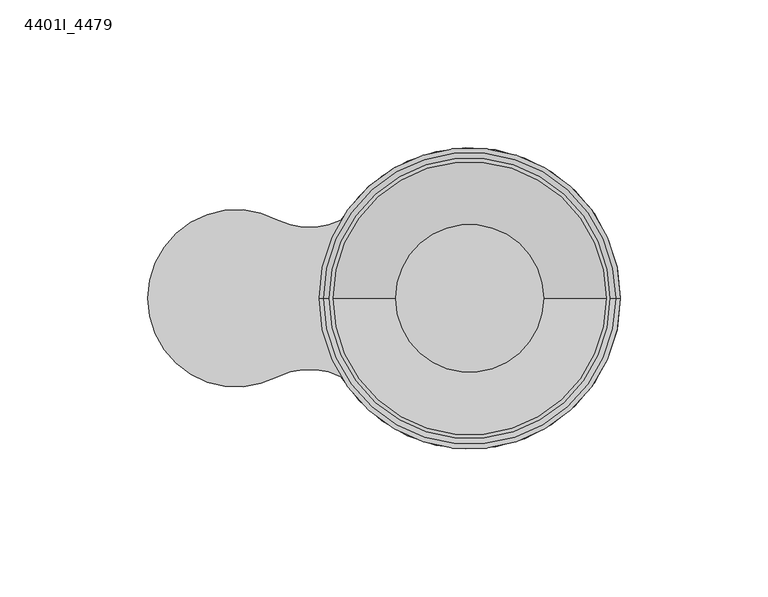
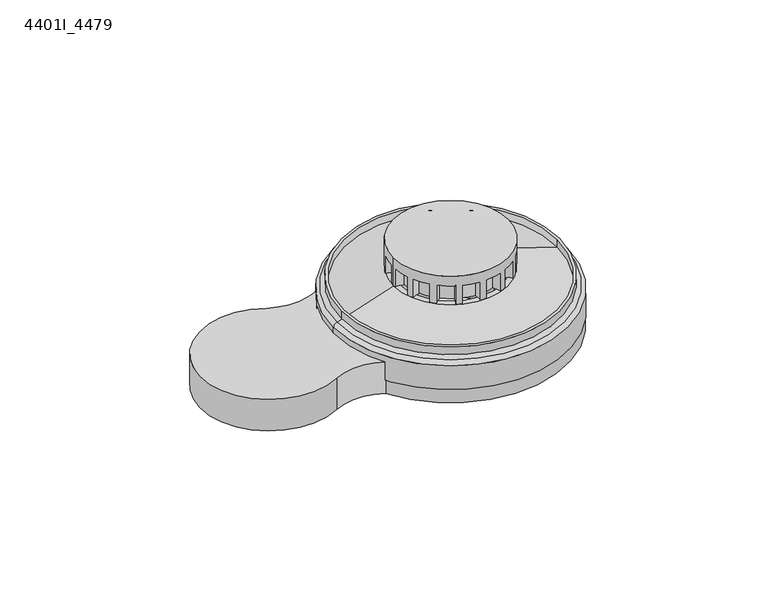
"""IFC4 building model written with IfcOpenShell, lengths in millimetres: alarm geometry, 4401I_Analog Smoke Detector : 4401I_4479."""

from ifc_helpers import new_model, si_unit, point, frame, frame_2d, origin, origin_with_axes, origin_2d, place, context, project, spatial, polyline, circle_curve, ellipse_curve, trimmed, segment, composite_curve, outline, extrude, source, transform, mapped, element, save
from ifc_brep_helpers import plane_surface, cylinder_surface, revolved_surface, advanced_brep


def alarm_4401i_4479_b156c475(model_context):
    return source(origin(), model_context, "Body", "SolidModel", [
        advanced_brep(
        [(49.4021885, 0.0, 18.7), (-49.4021885, 0.0, 18.7), (-25.0, 0.0, 26.9055913), (25.0, 0.0, 26.9055913), (46.9790343, 0.0, 18.7), (-46.9790343, 0.0, 18.7), (22.5768458, 0.0, 26.9055913), (-22.5768458, 0.0, 26.9055913)],
        [
            (0, 1, circle_curve(frame((0.0, 0.0, 18.7), z_axis=(0.0, 0.0, 1.0), x_axis=(-1.0, 0.0, 0.0)), 49.4021885)),
            (1, 2),
            (2, 3, circle_curve(frame((0.0, 0.0, 26.9055913), z_axis=(0.0, 0.0, -1.0), x_axis=(-1.0, 0.0, 0.0)), 25.0)),
            (3, 0),
            (1, 0, circle_curve(frame((0.0, 0.0, 18.7), z_axis=(0.0, 0.0, 1.0), x_axis=(-1.0, 0.0, 0.0)), 49.4021885)),
            (3, 2, circle_curve(frame((0.0, 0.0, 26.9055913), z_axis=(0.0, 0.0, -1.0), x_axis=(-1.0, 0.0, 0.0)), 25.0)),
            (4, 5, circle_curve(frame((0.0, 0.0, 18.7), z_axis=(0.0, 0.0, 1.0), x_axis=(-1.0, 0.0, 0.0)), 46.9790343)),
            (5, 1),
            (0, 4),
            (5, 4, circle_curve(frame((0.0, 0.0, 18.7), z_axis=(0.0, 0.0, 1.0), x_axis=(-1.0, 0.0, 0.0)), 46.9790343)),
            (6, 7, circle_curve(frame((0.0, 0.0, 26.9055913), z_axis=(0.0, 0.0, 1.0), x_axis=(-1.0, 0.0, 0.0)), 22.5768458)),
            (7, 5),
            (4, 6),
            (7, 6, circle_curve(frame((0.0, 0.0, 26.9055913), z_axis=(0.0, 0.0, 1.0), x_axis=(-1.0, 0.0, 0.0)), 22.5768458)),
            (2, 7),
            (6, 3),
        ],
        [
            revolved_surface(polyline([(-25.0, 0.0, 26.9055913), (-49.4021885, 0.0, 18.7)]), (0.0, 0.0, 2609.0581012), (0.0, 0.0, -1.0)),
            plane_surface(frame((0.0, 0.0, 18.7), z_axis=(0.0, 0.0, -1.0), x_axis=(-1.0, 0.0, 0.0))),
            revolved_surface(polyline([(-46.9790343, 0.0, 18.7), (-22.5768458, 0.0, 26.9055913)]), (0.0, 0.0, 2609.0581012), (0.0, 0.0, -1.0)),
            plane_surface(frame((0.0, 0.0, 26.9055913), z_axis=(0.0, 0.0, 1.0), x_axis=(-1.0, 0.0, 0.0))),
        ],
        [
            (0, [[1, 2, 3, 4]]),
            (0, [[5, -4, 6, -2]]),
            (1, [[7, 8, -1, 9]]),
            (1, [[10, -9, -5, -8]]),
            (2, [[11, 12, -7, 13]]),
            (2, [[14, -13, -10, -12]]),
            (3, [[-3, 15, -11, 16]]),
            (3, [[-6, -16, -14, -15]]),
        ],
    ),
        advanced_brep(
        [(-25.0, 0.0, 40.0055913), (25.0, 0.0, 40.0055913), (-10.2364426, 22.8082275, 26.9055913), (-7.8171012, 23.7464298, 26.9055913), (-6.566365, 19.9470011, 26.9055913), (-0.7601379, 20.9862381, 26.9055913), (-0.7748533, 24.9879892, 26.9055913), (1.8194655, 24.933703, 26.9055913), (1.528351, 20.9443105, 26.9055913), (7.2926143, 19.6930895, 26.9055913), (8.8036125, 23.3986411, 26.9055913), (11.1815896, 22.3600549, 26.9055913), (9.3925353, 18.7824461, 26.9055913), (14.2453716, 15.4294973, 26.9055913), (17.0541691, 18.2799157, 26.9055913), (18.857118, 16.4136864, 26.9055913), (15.8399791, 13.7874966, 26.9055913), (19.0494019, 8.8385682, 26.9055913), (22.7323284, 10.4039053, 26.9055913), (23.688298, 7.9915291, 26.9055913), (19.8981703, 6.7128844, 26.9055913), (20.9800803, 0.9144573, 26.9055913), (24.9816149, 0.9586025, 26.9055913), (25.0, 0.0, 26.9055913), (24.9464097, -1.6360453, 26.9055913), (20.9549841, -1.3742781, 26.9055913), (19.7461893, -7.1475874, 26.9055913), (23.4627531, -8.6312929, 26.9055913), (22.4416834, -11.0168438, 26.9055913), (18.851014, -9.2541488, 26.9055913), (15.5338454, -14.1315126, 26.9055913), (18.4048435, -16.9192711, 26.9055913), (16.5519242, -18.7358962, 26.9055913), (13.9036163, -15.7381528, 26.9055913), (8.978425, -18.9838849, 26.9055913), (10.5708052, -22.6551998, 26.9055913), (8.1655248, -23.628885, 26.9055913), (6.8590408, -19.8482634, 26.9055913), (1.0687273, -20.9727877, 26.9055913), (1.1422999, -24.9738894, 26.9055913), (-1.4525367, -24.9577671, 26.9055913), (-1.2201308, -20.9645243, 26.9055913), (-7.0021739, -19.7982211, 26.9055913), (-8.4585064, -23.5255961, 26.9055913), (-10.8515021, -22.5220981, 26.9055913), (-9.1152617, -18.9185624, 26.9055913), (-14.0168893, -15.6373532, 26.9055913), (-16.7834581, -18.5287758, 26.9055913), (-18.613661, -16.6892667, 26.9055913), (-15.6354753, -14.018984, 26.9055913), (-18.9173411, -9.1177961, 26.9055913), (-22.5768458, -10.7371334, 26.9055913), (-23.5681939, -8.3390788, 26.9055913), (-19.7972829, -7.0048262, 26.9055913), (-20.9643607, -1.2229394, 26.9055913), (-24.9648131, -1.3259355, 26.9055913), (-25.0, 0.0, 26.9055913), (-24.9677746, 1.2689495, 26.9055913), (-20.9729306, 1.0659176, 26.9055913), (-19.8491821, 6.8563817, 26.9055913), (-23.5871666, 8.2852624, 26.9055913), (-22.2772169, 11.3457307, 26.9055913), (-18.7128622, 9.5304138, 26.9055913), (-15.3243147, 14.3584602, 26.9055913), (-18.1539992, 17.1881446, 26.9055913), (-16.2745608, 18.9773199, 26.9055913), (-13.6706311, 15.9409487, 26.9055913), (-8.6982334, 19.1138885, 26.9055913), (-24.9648131, -1.3259355, 35.6055913), (-23.5681939, -8.3390788, 35.6055913), (-22.5768458, -10.7371334, 35.6055913), (-18.613661, -16.6892667, 35.6055913), (-16.7834581, -18.5287758, 35.6055913), (-10.8515021, -22.5220981, 35.6055913), (-8.4585064, -23.5255961, 35.6055913), (-1.4525367, -24.9577671, 35.6055913), (1.1422999, -24.9738894, 35.6055913), (8.1655248, -23.628885, 35.6055913), (10.5708052, -22.6551998, 35.6055913), (16.5519242, -18.7358962, 35.6055913), (18.4048435, -16.9192711, 35.6055913), (22.4416834, -11.0168438, 35.6055913), (23.4627531, -8.6312929, 35.6055913), (24.9464097, -1.6360453, 35.6055913), (24.9816149, 0.9586025, 35.6055913), (23.688298, 7.9915291, 35.6055913), (22.7323284, 10.4039053, 35.6055913), (18.857118, 16.4136864, 35.6055913), (17.0541691, 18.2799157, 35.6055913), (11.1815896, 22.3600549, 35.6055913), (8.8036125, 23.3986411, 35.6055913), (1.8194655, 24.933703, 35.6055913), (-0.7748533, 24.9879892, 35.6055913), (-7.8171012, 23.7464298, 35.6055913), (-10.2364426, 22.8082275, 35.6055913), (-16.2745608, 18.9773199, 35.6055913), (-18.1539992, 17.1881446, 35.6055913), (-22.2772169, 11.3457307, 35.6055913), (-23.5871666, 8.2852624, 35.6055913), (-24.9677746, 1.2689495, 35.6055913), (-8.6982334, 19.1138885, 35.6055913), (-13.6706311, 15.9409487, 35.6055913), (-0.7601379, 20.9862381, 35.6055913), (-6.566365, 19.9470011, 35.6055913), (7.2926143, 19.6930895, 35.6055913), (1.528351, 20.9443105, 35.6055913), (14.2453716, 15.4294973, 35.6055913), (9.3925353, 18.7824461, 35.6055913), (19.0494019, 8.8385682, 35.6055913), (15.8399791, 13.7874966, 35.6055913), (20.9800803, 0.9144573, 35.6055913), (19.8981703, 6.7128844, 35.6055913), (19.7461893, -7.1475874, 35.6055913), (20.9549841, -1.3742781, 35.6055913), (15.5338454, -14.1315126, 35.6055913), (18.851014, -9.2541488, 35.6055913), (8.978425, -18.9838849, 35.6055913), (13.9036163, -15.7381528, 35.6055913), (1.0687273, -20.9727877, 35.6055913), (6.8590408, -19.8482634, 35.6055913), (-7.0021739, -19.7982211, 35.6055913), (-1.2201308, -20.9645243, 35.6055913), (-14.0168893, -15.6373532, 35.6055913), (-9.1152617, -18.9185624, 35.6055913), (-18.9173411, -9.1177961, 35.6055913), (-15.6354753, -14.018984, 35.6055913), (-20.9643607, -1.2229394, 35.6055913), (-19.7972829, -7.0048262, 35.6055913), (-19.8491821, 6.8563817, 35.6055913), (-20.9729306, 1.0659176, 35.6055913), (-15.3243147, 14.3584602, 35.6055913), (-18.7128622, 9.5304138, 35.6055913)],
        [
            (0, 1, circle_curve(frame((0.0, 0.0, 40.0055913), z_axis=(0.0, 0.0, 1.0), x_axis=(1.0, 0.0, 0.0)), 25.0)),
            (1, 0, circle_curve(frame((0.0, 0.0, 40.0055913), z_axis=(0.0, 0.0, 1.0), x_axis=(1.0, 0.0, 0.0)), 25.0)),
            (2, 3, circle_curve(frame((0.0, 0.0, 26.9055913), z_axis=(0.0, 0.0, -1.0), x_axis=(1.0, 0.0, 0.0)), 25.0)),
            (3, 4),
            (4, 5, circle_curve(frame((0.0, 0.0, 26.9055913), z_axis=(0.0, 0.0, -1.0), x_axis=(0.7097021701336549, -0.7045018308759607, 0.0)), 21.0)),
            (5, 6),
            (6, 7, circle_curve(frame((0.0, 0.0, 26.9055913), z_axis=(0.0, 0.0, -1.0), x_axis=(1.0, 0.0, 0.0)), 25.0)),
            (7, 8),
            (8, 9, circle_curve(frame((0.0, 0.0, 26.9055913), z_axis=(0.0, 0.0, -1.0), x_axis=(0.38777352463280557, -0.9217546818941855, 0.0)), 21.0)),
            (9, 10),
            (10, 11, circle_curve(frame((0.0, 0.0, 26.9055913), z_axis=(0.0, 0.0, -1.0), x_axis=(1.0, 0.0, 0.0)), 25.0)),
            (11, 12),
            (12, 13, circle_curve(frame((0.0, 0.0, 26.9055913), z_axis=(0.0, 0.0, -1.0), x_axis=(0.0073543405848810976, -0.9999729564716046, 0.0)), 21.0)),
            (13, 14),
            (14, 15, circle_curve(frame((0.0, 0.0, 26.9055913), z_axis=(0.0, 0.0, -1.0), x_axis=(1.0, 0.0, 0.0)), 25.0)),
            (15, 16),
            (16, 17, circle_curve(frame((0.0, 0.0, 26.9055913), z_axis=(0.0, 0.0, -1.0), x_axis=(-0.3741741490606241, -0.9273584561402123, 0.0)), 21.0)),
            (17, 18),
            (18, 19, circle_curve(frame((0.0, 0.0, 26.9055913), z_axis=(0.0, 0.0, -1.0), x_axis=(1.0, 0.0, 0.0)), 25.0)),
            (19, 20),
            (20, 21, circle_curve(frame((0.0, 0.0, 26.9055913), z_axis=(0.0, 0.0, -1.0), x_axis=(-0.6992633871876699, -0.7148641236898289, 0.0)), 21.0)),
            (21, 22),
            (22, 23, circle_curve(frame((0.0, 0.0, 26.9055913), z_axis=(0.0, 0.0, -1.0), x_axis=(1.0, 0.0, 0.0)), 25.0)),
            (23, 24, circle_curve(frame((0.0, 0.0, 26.9055913), z_axis=(0.0, 0.0, -1.0), x_axis=(1.0, 0.0, 0.0)), 25.0)),
            (24, 25),
            (25, 26, circle_curve(frame((0.0, 0.0, 26.9055913), z_axis=(0.0, 0.0, -1.0), x_axis=(-0.9188779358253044, -0.39454193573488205, 0.0)), 21.0)),
            (26, 27),
            (27, 28, circle_curve(frame((0.0, 0.0, 26.9055913), z_axis=(0.0, 0.0, -1.0), x_axis=(1.0, 0.0, 0.0)), 25.0)),
            (28, 29),
            (29, 30, circle_curve(frame((0.0, 0.0, 26.9055913), z_axis=(0.0, 0.0, -1.0), x_axis=(-0.9998918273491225, -0.014708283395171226, 0.0)), 21.0)),
            (30, 31),
            (31, 32, circle_curve(frame((0.0, 0.0, 26.9055913), z_axis=(0.0, 0.0, -1.0), x_axis=(1.0, 0.0, 0.0)), 25.0)),
            (32, 33),
            (33, 34, circle_curve(frame((0.0, 0.0, 26.9055913), z_axis=(0.0, 0.0, -1.0), x_axis=(-0.9300851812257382, 0.3673439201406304, 0.0)), 21.0)),
            (34, 35),
            (35, 36, circle_curve(frame((0.0, 0.0, 26.9055913), z_axis=(0.0, 0.0, -1.0), x_axis=(1.0, 0.0, 0.0)), 25.0)),
            (36, 37),
            (37, 38, circle_curve(frame((0.0, 0.0, 26.9055913), z_axis=(0.0, 0.0, -1.0), x_axis=(-0.7199874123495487, 0.6939871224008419, 0.0)), 21.0)),
            (38, 39),
            (39, 40, circle_curve(frame((0.0, 0.0, 26.9055913), z_axis=(0.0, 0.0, -1.0), x_axis=(1.0, 0.0, 0.0)), 25.0)),
            (40, 41),
            (41, 42, circle_curve(frame((0.0, 0.0, 26.9055913), z_axis=(0.0, 0.0, -1.0), x_axis=(-0.4012890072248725, 0.9159514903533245, 0.0)), 21.0)),
            (42, 43),
            (43, 44, circle_curve(frame((0.0, 0.0, 26.9055913), z_axis=(0.0, 0.0, -1.0), x_axis=(1.0, 0.0, 0.0)), 25.0)),
            (44, 45),
            (45, 46, circle_curve(frame((0.0, 0.0, 26.9055913), z_axis=(0.0, 0.0, -1.0), x_axis=(-0.022061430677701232, 0.9997566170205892, 0.0)), 21.0)),
            (46, 47),
            (47, 48, circle_curve(frame((0.0, 0.0, 26.9055913), z_axis=(0.0, 0.0, -1.0), x_axis=(1.0, 0.0, 0.0)), 25.0)),
            (48, 49),
            (49, 50, circle_curve(frame((0.0, 0.0, 26.9055913), z_axis=(0.0, 0.0, -1.0), x_axis=(0.36049382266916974, 0.9327616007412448, 0.0)), 21.0)),
            (50, 51),
            (51, 52, circle_curve(frame((0.0, 0.0, 26.9055913), z_axis=(0.0, 0.0, -1.0), x_axis=(1.0, 0.0, 0.0)), 25.0)),
            (52, 53),
            (53, 54, circle_curve(frame((0.0, 0.0, 26.9055913), z_axis=(0.0, 0.0, -1.0), x_axis=(0.6886733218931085, 0.7250717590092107, 0.0)), 21.0)),
            (54, 55),
            (55, 56, circle_curve(frame((0.0, 0.0, 26.9055913), z_axis=(0.0, 0.0, -1.0), x_axis=(1.0, 0.0, 0.0)), 25.0)),
            (56, 57, circle_curve(frame((0.0, 0.0, 26.9055913), z_axis=(0.0, 0.0, -1.0), x_axis=(1.0, 0.0, 0.0)), 25.0)),
            (57, 58),
            (58, 59, circle_curve(frame((0.0, 0.0, 26.9055913), z_axis=(0.0, 0.0, -1.0), x_axis=(0.9129755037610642, 0.4080143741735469, 0.0)), 21.0)),
            (59, 60),
            (60, 61, circle_curve(frame((0.0, 0.0, 26.9055913), z_axis=(0.0, 0.0, -1.0), x_axis=(1.0, 0.0, 0.0)), 25.0)),
            (61, 62),
            (62, 63, circle_curve(frame((0.0, 0.0, 26.9055913), z_axis=(0.0, 0.0, -1.0), x_axis=(1.0, 0.0, 0.0)), 21.0)),
            (63, 64),
            (64, 65, circle_curve(frame((0.0, 0.0, 26.9055913), z_axis=(0.0, 0.0, -1.0), x_axis=(1.0, 0.0, 0.0)), 25.0)),
            (65, 66),
            (66, 67, circle_curve(frame((0.0, 0.0, 26.9055913), z_axis=(0.0, 0.0, -1.0), x_axis=(0.9245815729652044, -0.3809841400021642, 0.0)), 21.0)),
            (67, 2),
            (0, 56),
            (55, 68),
            (68, 69, circle_curve(frame((0.0, 0.0, 35.6055913), z_axis=(0.0, 0.0, 1.0), x_axis=(1.0, 0.0, 0.0)), 25.0)),
            (69, 52),
            (51, 70),
            (70, 71, circle_curve(frame((0.0, 0.0, 35.6055913), z_axis=(0.0, 0.0, 1.0), x_axis=(1.0, 0.0, 0.0)), 25.0)),
            (71, 48),
            (47, 72),
            (72, 73, circle_curve(frame((0.0, 0.0, 35.6055913), z_axis=(0.0, 0.0, 1.0), x_axis=(1.0, 0.0, 0.0)), 25.0)),
            (73, 44),
            (43, 74),
            (74, 75, circle_curve(frame((0.0, 0.0, 35.6055913), z_axis=(0.0, 0.0, 1.0), x_axis=(1.0, 0.0, 0.0)), 25.0)),
            (75, 40),
            (39, 76),
            (76, 77, circle_curve(frame((0.0, 0.0, 35.6055913), z_axis=(0.0, 0.0, 1.0), x_axis=(1.0, 0.0, 0.0)), 25.0)),
            (77, 36),
            (35, 78),
            (78, 79, circle_curve(frame((0.0, 0.0, 35.6055913), z_axis=(0.0, 0.0, 1.0), x_axis=(1.0, 0.0, 0.0)), 25.0)),
            (79, 32),
            (31, 80),
            (80, 81, circle_curve(frame((0.0, 0.0, 35.6055913), z_axis=(0.0, 0.0, 1.0), x_axis=(1.0, 0.0, 0.0)), 25.0)),
            (81, 28),
            (27, 82),
            (82, 83, circle_curve(frame((0.0, 0.0, 35.6055913), z_axis=(0.0, 0.0, 1.0), x_axis=(1.0, 0.0, 0.0)), 25.0)),
            (83, 24),
            (23, 1),
            (22, 84),
            (84, 85, circle_curve(frame((0.0, 0.0, 35.6055913), z_axis=(0.0, 0.0, 1.0), x_axis=(1.0, 0.0, 0.0)), 25.0)),
            (85, 19),
            (18, 86),
            (86, 87, circle_curve(frame((0.0, 0.0, 35.6055913), z_axis=(0.0, 0.0, 1.0), x_axis=(1.0, 0.0, 0.0)), 25.0)),
            (87, 15),
            (14, 88),
            (88, 89, circle_curve(frame((0.0, 0.0, 35.6055913), z_axis=(0.0, 0.0, 1.0), x_axis=(1.0, 0.0, 0.0)), 25.0)),
            (89, 11),
            (10, 90),
            (90, 91, circle_curve(frame((0.0, 0.0, 35.6055913), z_axis=(0.0, 0.0, 1.0), x_axis=(1.0, 0.0, 0.0)), 25.0)),
            (91, 7),
            (6, 92),
            (92, 93, circle_curve(frame((0.0, 0.0, 35.6055913), z_axis=(0.0, 0.0, 1.0), x_axis=(1.0, 0.0, 0.0)), 25.0)),
            (93, 3),
            (2, 94),
            (94, 95, circle_curve(frame((0.0, 0.0, 35.6055913), z_axis=(0.0, 0.0, 1.0), x_axis=(1.0, 0.0, 0.0)), 25.0)),
            (95, 65),
            (64, 96),
            (96, 97, circle_curve(frame((0.0, 0.0, 35.6055913), z_axis=(0.0, 0.0, 1.0), x_axis=(1.0, 0.0, 0.0)), 25.0)),
            (97, 61),
            (60, 98),
            (98, 99, circle_curve(frame((0.0, 0.0, 35.6055913), z_axis=(0.0, 0.0, 1.0), x_axis=(1.0, 0.0, 0.0)), 25.0)),
            (99, 57),
            (100, 101, circle_curve(frame((0.0, 0.0, 35.6055913), z_axis=(0.0, 0.0, 1.0), x_axis=(0.9245815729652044, -0.3809841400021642, 0.0)), 21.0)),
            (101, 95),
            (94, 100),
            (102, 103, circle_curve(frame((0.0, 0.0, 35.6055913), z_axis=(0.0, 0.0, 1.0), x_axis=(0.7097021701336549, -0.7045018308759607, 0.0)), 21.0)),
            (103, 93),
            (92, 102),
            (104, 105, circle_curve(frame((0.0, 0.0, 35.6055913), z_axis=(0.0, 0.0, 1.0), x_axis=(0.38777352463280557, -0.9217546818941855, 0.0)), 21.0)),
            (105, 91),
            (90, 104),
            (106, 107, circle_curve(frame((0.0, 0.0, 35.6055913), z_axis=(0.0, 0.0, 1.0), x_axis=(0.0073543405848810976, -0.9999729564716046, 0.0)), 21.0)),
            (107, 89),
            (88, 106),
            (108, 109, circle_curve(frame((0.0, 0.0, 35.6055913), z_axis=(0.0, 0.0, 1.0), x_axis=(-0.3741741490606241, -0.9273584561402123, 0.0)), 21.0)),
            (109, 87),
            (86, 108),
            (110, 111, circle_curve(frame((0.0, 0.0, 35.6055913), z_axis=(0.0, 0.0, 1.0), x_axis=(-0.6992633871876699, -0.7148641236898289, 0.0)), 21.0)),
            (111, 85),
            (84, 110),
            (112, 113, circle_curve(frame((0.0, 0.0, 35.6055913), z_axis=(0.0, 0.0, 1.0), x_axis=(-0.9188779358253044, -0.39454193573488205, 0.0)), 21.0)),
            (113, 83),
            (82, 112),
            (114, 115, circle_curve(frame((0.0, 0.0, 35.6055913), z_axis=(0.0, 0.0, 1.0), x_axis=(-0.9998918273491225, -0.014708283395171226, 0.0)), 21.0)),
            (115, 81),
            (80, 114),
            (116, 117, circle_curve(frame((0.0, 0.0, 35.6055913), z_axis=(0.0, 0.0, 1.0), x_axis=(-0.9300851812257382, 0.3673439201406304, 0.0)), 21.0)),
            (117, 79),
            (78, 116),
            (118, 119, circle_curve(frame((0.0, 0.0, 35.6055913), z_axis=(0.0, 0.0, 1.0), x_axis=(-0.7199874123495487, 0.6939871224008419, 0.0)), 21.0)),
            (119, 77),
            (76, 118),
            (120, 121, circle_curve(frame((0.0, 0.0, 35.6055913), z_axis=(0.0, 0.0, 1.0), x_axis=(-0.4012890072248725, 0.9159514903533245, 0.0)), 21.0)),
            (121, 75),
            (74, 120),
            (122, 123, circle_curve(frame((0.0, 0.0, 35.6055913), z_axis=(0.0, 0.0, 1.0), x_axis=(-0.022061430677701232, 0.9997566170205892, 0.0)), 21.0)),
            (123, 73),
            (72, 122),
            (124, 125, circle_curve(frame((0.0, 0.0, 35.6055913), z_axis=(0.0, 0.0, 1.0), x_axis=(0.36049382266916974, 0.9327616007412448, 0.0)), 21.0)),
            (125, 71),
            (70, 124),
            (126, 127, circle_curve(frame((0.0, 0.0, 35.6055913), z_axis=(0.0, 0.0, 1.0), x_axis=(0.6886733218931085, 0.7250717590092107, 0.0)), 21.0)),
            (127, 69),
            (68, 126),
            (128, 129, circle_curve(frame((0.0, 0.0, 35.6055913), z_axis=(0.0, 0.0, 1.0), x_axis=(0.9129755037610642, 0.4080143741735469, 0.0)), 21.0)),
            (129, 99),
            (98, 128),
            (130, 131, circle_curve(frame((0.0, 0.0, 35.6055913), z_axis=(0.0, 0.0, 1.0), x_axis=(1.0, 0.0, 0.0)), 21.0)),
            (131, 97),
            (96, 130),
            (100, 67),
            (66, 101),
            (102, 5),
            (4, 103),
            (104, 9),
            (8, 105),
            (106, 13),
            (12, 107),
            (108, 17),
            (16, 109),
            (110, 21),
            (20, 111),
            (26, 112),
            (113, 25),
            (30, 114),
            (115, 29),
            (34, 116),
            (117, 33),
            (119, 37),
            (118, 38),
            (42, 120),
            (121, 41),
            (46, 122),
            (123, 45),
            (125, 49),
            (124, 50),
            (127, 53),
            (126, 54),
            (128, 59),
            (58, 129),
            (130, 63),
            (62, 131),
        ],
        [
            plane_surface(frame((25.0, 0.0, 40.0055913), z_axis=(0.0, 0.0, 1.0), x_axis=(0.0, 1.0, 0.0))),
            plane_surface(frame((25.0, 0.0, 26.9055913), z_axis=(0.0, 0.0, -1.0), x_axis=(0.0, -1.0, 0.0))),
            cylinder_surface(frame((0.0, 0.0, 26.9055913), z_axis=(0.0, 0.0, 1.0), x_axis=(1.0, 0.0, 0.0)), 25.0),
            plane_surface(frame((19.416213, -8.0006669, 35.6055913), z_axis=(0.0, 0.0, -1.0), x_axis=(-0.38098414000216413, -0.9245815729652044, 0.0))),
            cylinder_surface(frame((0.0, 0.0, 26.9055913), z_axis=(0.0, 0.0, -1.0000000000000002), x_axis=(0.9245815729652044, -0.3809841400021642, 0.0)), 21.0),
            plane_surface(frame((-8.6982334, 19.1138885, 35.6055913), z_axis=(-0.9231743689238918, -0.3843814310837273, 0.0), x_axis=(0.0, 0.0, -1.0))),
            plane_surface(frame((-18.8784906, 22.0136911, 35.6055913), z_axis=(0.7590927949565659, 0.6509824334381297, 0.0), x_axis=(0.0, 0.0, -1.0))),
            cylinder_surface(frame((0.0, 0.0, 0.0), z_axis=(0.0, 0.0, -1.0), x_axis=(0.7097021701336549, -0.7045018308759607, 0.0)), 21.0),
            plane_surface(frame((-0.7601379, 20.9862381, 35.6055913), z_axis=(-0.9999932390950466, -0.0036771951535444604, 0.0), x_axis=(0.0, 0.0, -1.0))),
            plane_surface(frame((-9.0678374, 27.5458586, 35.6055913), z_axis=(0.9498571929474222, 0.3126840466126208, 0.0), x_axis=(0.0, 0.0, -1.0))),
            cylinder_surface(frame((0.0, 0.0, 0.0), z_axis=(0.0, 0.0, -1.0000000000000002), x_axis=(0.38777352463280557, -0.9217546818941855, 0.0)), 21.0),
            plane_surface(frame((7.2926143, 19.6930895, 35.6055913), z_axis=(-0.9259762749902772, 0.37758169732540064, 0.0), x_axis=(0.0, 0.0, -1.0))),
            plane_surface(frame((2.1105799, 28.9230955, 35.6055913), z_axis=(0.9973481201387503, -0.07277861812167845, 0.0), x_axis=(0.0, 0.0, -1.0))),
            cylinder_surface(frame((0.0, 0.0, 0.0), z_axis=(0.0, 0.0, -1.0), x_axis=(0.0073543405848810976, -0.9999729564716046, 0.0)), 21.0),
            plane_surface(frame((14.2453716, 15.4294973, 35.6055913), z_axis=(-0.7122879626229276, 0.7018873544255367, 0.0), x_axis=(0.0, 0.0, -1.0))),
            plane_surface(frame((12.970644, 25.9376636, 35.6055913), z_axis=(0.8944021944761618, -0.44726358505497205, 0.0), x_axis=(0.0, 0.0, -1.0))),
            cylinder_surface(frame((0.0, 0.0, 0.0), z_axis=(0.0, 0.0, -1.0000000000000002), x_axis=(-0.3741741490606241, -0.9273584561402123, 0.0)), 21.0),
            plane_surface(frame((19.0494019, 8.8385682, 35.6055913), z_axis=(-0.39116037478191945, 0.9203225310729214, 0.0), x_axis=(0.0, 0.0, -1.0))),
            plane_surface(frame((21.8742569, 19.0398762, 35.6055913), z_axis=(0.6565474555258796, -0.7542847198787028, 0.0), x_axis=(0.0, 0.0, -1.0))),
            cylinder_surface(frame((0.0, 0.0, 0.0), z_axis=(0.0, 0.0, -1.0), x_axis=(-0.6992633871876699, -0.7148641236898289, 0.0)), 21.0),
            plane_surface(frame((20.9800803, 0.9144573, 35.6055913), z_axis=(-0.011031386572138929, 0.999939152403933, 0.0), x_axis=(0.0, 0.0, -1.0))),
            plane_surface(frame((27.4784257, 9.2701738, 35.6055913), z_axis=(0.3196611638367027, -0.9475319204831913, 0.0), x_axis=(0.0, 0.0, -1.0))),
            plane_surface(frame((19.7461893, -7.1475874, 35.6055913), z_axis=(0.37076154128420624, 0.9287280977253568, 0.0), x_axis=(0.0, 0.0, -1.0))),
            plane_surface(frame((28.9378352, -1.8978126, 35.6055913), z_axis=(-0.06544181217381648, -0.9978563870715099, 0.0), x_axis=(0.0, 0.0, -1.0))),
            cylinder_surface(frame((0.0, 0.0, 0.0), z_axis=(0.0, 0.0, -1.0), x_axis=(-0.9188779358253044, -0.39454193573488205, 0.0)), 21.0),
            plane_surface(frame((15.5338454, -14.1315126, 35.6055913), z_axis=(0.6966299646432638, 0.7174306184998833, 0.0), x_axis=(0.0, 0.0, -1.0))),
            plane_surface(frame((26.0323527, -12.7795388, 35.6055913), z_axis=(-0.44067375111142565, -0.8976673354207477, 0.0), x_axis=(0.0, 0.0, -1.0))),
            cylinder_surface(frame((0.0, 0.0, 0.0), z_axis=(0.0, 0.0, -1.0), x_axis=(-0.9998918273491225, -0.014708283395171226, 0.0)), 21.0),
            plane_surface(frame((8.978425, -18.9838849, 35.6055913), z_axis=(0.9174209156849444, 0.39791816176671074, 0.0), x_axis=(0.0, 0.0, -1.0))),
            plane_surface(frame((19.200232, -21.7336396, 35.6055913), z_axis=(-0.7494358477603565, -0.6620769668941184, 0.0), x_axis=(0.0, 0.0, -1.0))),
            cylinder_surface(frame((0.0, 0.0, 0.0), z_axis=(0.0, 0.0, -1.0000000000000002), x_axis=(-0.9300851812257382, 0.3673439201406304, 0.0)), 21.0),
            plane_surface(frame((9.4720088, -27.4095066, 35.6055913), z_axis=(-0.945155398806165, -0.3266209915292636, 0.0), x_axis=(0.0, 0.0, -1.0))),
            cylinder_surface(frame((0.0, 0.0, 0.0), z_axis=(0.0, 0.0, -1.0000000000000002), x_axis=(-0.7199874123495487, 0.6939871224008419, 0.0)), 21.0),
            plane_surface(frame((1.0687273, -20.9727877, 35.6055913), z_axis=(0.9998309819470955, 0.01838498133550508, 0.0), x_axis=(0.0, 0.0, -1.0))),
            plane_surface(frame((-7.0021739, -19.7982211, 35.6055913), z_axis=(0.9314296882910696, -0.3639213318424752, 0.0), x_axis=(0.0, 0.0, -1.0))),
            plane_surface(frame((-1.6849425, -28.9510098, 35.6055913), z_axis=(-0.9983106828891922, 0.058101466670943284, 0.0), x_axis=(0.0, 0.0, -1.0))),
            cylinder_surface(frame((0.0, 0.0, 0.0), z_axis=(0.0, 0.0, -1.0), x_axis=(-0.4012890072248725, 0.9159514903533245, 0.0)), 21.0),
            plane_surface(frame((-14.0168893, -15.6373532, 35.6055913), z_axis=(0.7225344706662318, -0.691334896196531, 0.0), x_axis=(0.0, 0.0, -1.0))),
            plane_surface(frame((-12.5877424, -26.1256338, 35.6055913), z_axis=(-0.9008839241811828, 0.43406008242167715, 0.0), x_axis=(0.0, 0.0, -1.0))),
            cylinder_surface(frame((0.0, 0.0, 0.0), z_axis=(0.0, 0.0, -1.0), x_axis=(-0.022061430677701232, 0.9997566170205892, 0.0)), 21.0),
            plane_surface(frame((-21.5918468, -19.3595494, 35.6055913), z_axis=(-0.6675706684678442, 0.7445464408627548, 0.0), x_axis=(0.0, 0.0, -1.0))),
            cylinder_surface(frame((0.0, 0.0, 0.0), z_axis=(0.0, 0.0, -1.0000000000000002), x_axis=(0.36049382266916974, 0.9327616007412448, 0.0)), 21.0),
            plane_surface(frame((-18.9173411, -9.1177961, 35.6055913), z_axis=(0.4046544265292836, -0.914469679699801, 0.0), x_axis=(0.0, 0.0, -1.0))),
            plane_surface(frame((-27.3391049, -9.6733314, 35.6055913), z_axis=(-0.3335631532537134, 0.9427277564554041, 0.0), x_axis=(0.0, 0.0, -1.0))),
            cylinder_surface(frame((0.0, 0.0, 0.0), z_axis=(0.0, 0.0, -1.0), x_axis=(0.6886733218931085, 0.7250717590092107, 0.0)), 21.0),
            plane_surface(frame((-20.9643607, -1.2229394, 35.6055913), z_axis=(0.025737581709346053, -0.9996687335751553, 0.0), x_axis=(0.0, 0.0, -1.0))),
            cylinder_surface(frame((0.0, 0.0, 0.0), z_axis=(0.0, 0.0, -1.0), x_axis=(0.9129755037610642, 0.4080143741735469, 0.0)), 21.0),
            plane_surface(frame((-19.8491821, 6.8563817, 35.6055913), z_axis=(-0.35706143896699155, -0.9340809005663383, 0.0), x_axis=(0.0, 0.0, -1.0))),
            plane_surface(frame((-28.9626185, 1.4719814, 35.6055913), z_axis=(0.05075797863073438, 0.998710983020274, 0.0), x_axis=(0.0, 0.0, -1.0))),
            cylinder_surface(frame((0.0, 0.0, 0.0), z_axis=(0.0, 0.0, -1.0), x_axis=(1.0, 0.0, 0.0)), 21.0),
            plane_surface(frame((-15.3243147, 14.3584602, 35.6055913), z_axis=(-0.7071067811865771, -0.7071067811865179, 0.0), x_axis=(0.0, 0.0, -1.0))),
            plane_surface(frame((-25.8415717, 13.1610476, 35.6055913), z_axis=(0.45382922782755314, 0.8910886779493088, 0.0), x_axis=(0.0, 0.0, -1.0))),
        ],
        [
            (0, [[1, 2]]),
            (1, [[3, 4, 5, 6, 7, 8, 9, 10, 11, 12, 13, 14, 15, 16, 17, 18, 19, 20, 21, 22, 23, 24, 25, 26, 27, 28, 29, 30, 31, 32, 33, 34, 35, 36, 37, 38, 39, 40, 41, 42, 43, 44, 45, 46, 47, 48, 49, 50, 51, 52, 53, 54, 55, 56, 57, 58, 59, 60, 61, 62, 63, 64, 65, 66, 67, 68]]),
            (2, [[-1, 69, -56, 70, 71, 72, -52, 73, 74, 75, -48, 76, 77, 78, -44, 79, 80, 81, -40, 82, 83, 84, -36, 85, 86, 87, -32, 88, 89, 90, -28, 91, 92, 93, -24, 94]]),
            (2, [[-2, -94, -23, 95, 96, 97, -19, 98, 99, 100, -15, 101, 102, 103, -11, 104, 105, 106, -7, 107, 108, 109, -3, 110, 111, 112, -65, 113, 114, 115, -61, 116, 117, 118, -57, -69]]),
            (3, [[119, 120, -111, 121]]),
            (3, [[122, 123, -108, 124]]),
            (3, [[125, 126, -105, 127]]),
            (3, [[128, 129, -102, 130]]),
            (3, [[131, 132, -99, 133]]),
            (3, [[134, 135, -96, 136]]),
            (3, [[137, 138, -92, 139]]),
            (3, [[140, 141, -89, 142]]),
            (3, [[143, 144, -86, 145]]),
            (3, [[146, 147, -83, 148]]),
            (3, [[149, 150, -80, 151]]),
            (3, [[152, 153, -77, 154]]),
            (3, [[155, 156, -74, 157]]),
            (3, [[158, 159, -71, 160]]),
            (3, [[161, 162, -117, 163]]),
            (3, [[164, 165, -114, 166]]),
            (4, [[-119, 167, -67, 168]]),
            (5, [[-167, -121, -110, -68]]),
            (6, [[-168, -66, -112, -120]]),
            (7, [[-122, 169, -5, 170]]),
            (8, [[-169, -124, -107, -6]]),
            (9, [[-170, -4, -109, -123]]),
            (10, [[-125, 171, -9, 172]]),
            (11, [[-171, -127, -104, -10]]),
            (12, [[-172, -8, -106, -126]]),
            (13, [[-128, 173, -13, 174]]),
            (14, [[-173, -130, -101, -14]]),
            (15, [[-174, -12, -103, -129]]),
            (16, [[-131, 175, -17, 176]]),
            (17, [[-175, -133, -98, -18]]),
            (18, [[-176, -16, -100, -132]]),
            (19, [[-134, 177, -21, 178]]),
            (20, [[-177, -136, -95, -22]]),
            (21, [[-178, -20, -97, -135]]),
            (22, [[179, -139, -91, -27]]),
            (23, [[180, -25, -93, -138]]),
            (24, [[-137, -179, -26, -180]]),
            (25, [[181, -142, -88, -31]]),
            (26, [[182, -29, -90, -141]]),
            (27, [[-140, -181, -30, -182]]),
            (28, [[183, -145, -85, -35]]),
            (29, [[184, -33, -87, -144]]),
            (30, [[-143, -183, -34, -184]]),
            (31, [[185, -37, -84, -147]]),
            (32, [[-146, 186, -38, -185]]),
            (33, [[-186, -148, -82, -39]]),
            (34, [[187, -151, -79, -43]]),
            (35, [[188, -41, -81, -150]]),
            (36, [[-149, -187, -42, -188]]),
            (37, [[189, -154, -76, -47]]),
            (38, [[190, -45, -78, -153]]),
            (39, [[-152, -189, -46, -190]]),
            (40, [[191, -49, -75, -156]]),
            (41, [[-155, 192, -50, -191]]),
            (42, [[-192, -157, -73, -51]]),
            (43, [[193, -53, -72, -159]]),
            (44, [[-158, 194, -54, -193]]),
            (45, [[-194, -160, -70, -55]]),
            (46, [[-161, 195, -59, 196]]),
            (47, [[-195, -163, -116, -60]]),
            (48, [[-196, -58, -118, -162]]),
            (49, [[-164, 197, -63, 198]]),
            (50, [[-197, -166, -113, -64]]),
            (51, [[-198, -62, -115, -165]]),
        ],
    ),
        advanced_brep(
        [(25.0, 0.0, 18.7), (-25.0, 0.0, 18.7), (-25.0, 0.0, 17.0), (25.0, 0.0, 17.0), (49.4021885, 0.0, 18.7), (-49.4021885, 0.0, 18.7), (51.0000836, 0.0, 17.0), (-51.0000836, 0.0, 17.0)],
        [
            (0, 1, circle_curve(frame((0.0, 0.0, 18.7), z_axis=(0.0, 0.0, 1.0), x_axis=(-1.0, 0.0, 0.0)), 25.0)),
            (1, 2),
            (2, 3, circle_curve(frame((0.0, 0.0, 17.0), z_axis=(0.0, 0.0, -1.0), x_axis=(-1.0, 0.0, 0.0)), 25.0)),
            (3, 0),
            (1, 0, circle_curve(frame((0.0, 0.0, 18.7), z_axis=(0.0, 0.0, 1.0), x_axis=(-1.0, 0.0, 0.0)), 25.0)),
            (3, 2, circle_curve(frame((0.0, 0.0, 17.0), z_axis=(0.0, 0.0, -1.0), x_axis=(-1.0, 0.0, 0.0)), 25.0)),
            (4, 5, circle_curve(frame((0.0, 0.0, 18.7), z_axis=(0.0, 0.0, 1.0), x_axis=(-1.0, 0.0, 0.0)), 49.4021885)),
            (5, 1),
            (0, 4),
            (5, 4, circle_curve(frame((0.0, 0.0, 18.7), z_axis=(0.0, 0.0, 1.0), x_axis=(-1.0, 0.0, 0.0)), 49.4021885)),
            (6, 7, circle_curve(frame((0.0, 0.0, 17.0), z_axis=(0.0, 0.0, 1.0), x_axis=(-1.0, 0.0, 0.0)), 51.0000836)),
            (7, 5, circle_curve(frame((-49.2482507, 0.0, 16.9543466), z_axis=(0.0, 1.0, 0.0), x_axis=(1.0, 0.0, 0.0)), 1.7524276)),
            (4, 6, circle_curve(frame((49.2482507, 0.0, 16.9543466), z_axis=(0.0, 1.0, 0.0), x_axis=(-1.0, 0.0, 0.0)), 1.7524276)),
            (7, 6, circle_curve(frame((0.0, 0.0, 17.0), z_axis=(0.0, 0.0, 1.0), x_axis=(-1.0, 0.0, 0.0)), 51.0000836)),
            (2, 7),
            (6, 3),
        ],
        [
            revolved_surface(polyline([(-25.0, 0.0, 17.0), (-25.0, 0.0, 18.699999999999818)]), (0.0, 0.0, 2609.0581012), (0.0, 0.0, -1.0)),
            plane_surface(frame((0.0, 0.0, 18.7), z_axis=(0.0, 0.0, 1.0), x_axis=(-1.0, 0.0, 0.0))),
            revolved_surface(trimmed(ellipse_curve(frame((-49.2482507, 0.0, 16.9543466), z_axis=(0.0, -1.0, 0.0), x_axis=(1.0, 0.0, 0.0)), 1.7524276, 1.7524276), [point((-49.4021885, 0.0, 18.7))], [point((-51.0000836, 0.0, 17.0))], True, "CARTESIAN"), (0.0, 0.0, 2609.0581012), (0.0, 0.0, -1.0)),
            plane_surface(frame((0.0, 0.0, 17.0), z_axis=(0.0, 0.0, -1.0), x_axis=(-1.0, 0.0, 0.0))),
        ],
        [
            (0, [[1, 2, 3, 4]]),
            (0, [[5, -4, 6, -2]]),
            (1, [[7, 8, -1, 9]]),
            (1, [[10, -9, -5, -8]]),
            (2, [[11, 12, -7, 13]]),
            (2, [[14, -13, -10, -12]]),
            (3, [[-3, 15, -11, 16]]),
            (3, [[-6, -16, -14, -15]]),
        ],
    ),
        extrude(outline(composite_curve([segment(trimmed(circle_curve(origin_2d(), 51.0), [point((-51.0, 0.0))], [point((51.0, 0.0))], False, "CARTESIAN"), True, "CONTINUOUS"), segment(trimmed(circle_curve(origin_2d(), 51.0), [point((51.0, 0.0))], [point((-51.0, 0.0))], False, "CARTESIAN"), True, "CONTINUOUS")], self_intersect=False), holes=[composite_curve([segment(trimmed(circle_curve(origin_2d(), 25.0), [point((-25.0, 0.0))], [point((25.0, 0.0))], True, "CARTESIAN"), True, "CONTINUOUS"), segment(trimmed(circle_curve(origin_2d(), 25.0), [point((25.0, 0.0))], [point((-25.0, 0.0))], True, "CARTESIAN"), True, "CONTINUOUS")], self_intersect=False)]), frame((0.0, 0.0, 6.0), z_axis=(0.0, 0.0, 1.0), x_axis=(1.0, 0.0, 0.0)), (0.0, 0.0, 1.0), 11.0),
        extrude(outline(composite_curve([segment(trimmed(circle_curve(origin_2d(), 51.0), [point((51.0, 0.0))], [point((-43.5719611, -26.5044187))], False, "CARTESIAN"), True, "CONTINUOUS"), segment(trimmed(circle_curve(frame_2d((-54.258965, -48.2407206)), 24.2214549), [point((-43.5719611, -26.5044187))], [point((-64.9459689, -26.5044187))], True, "CARTESIAN"), True, "CONTINUOUS"), segment(trimmed(circle_curve(frame_2d((-79.0, 0.0)), 30.0), [point((-64.9459689, -26.5044187))], [point((-64.9459689, 26.5044187))], False, "CARTESIAN"), True, "CONTINUOUS"), segment(trimmed(circle_curve(frame_2d((-54.258965, 48.2407206)), 24.2214549), [point((-64.9459689, 26.5044187))], [point((-43.5719611, 26.5044187))], True, "CARTESIAN"), True, "CONTINUOUS"), segment(trimmed(circle_curve(origin_2d(), 51.0), [point((-43.5719611, 26.5044187))], [point((51.0, 0.0))], False, "CARTESIAN"), True, "CONTINUOUS")], self_intersect=False), holes=[composite_curve([segment(polyline([(-21.534819, -18.7063919), (-28.2213509, -25.3929238)]), True, "CONTINUOUS"), segment(trimmed(circle_curve(frame_2d((-26.8071373, -26.8071373)), 2.0), [point((-28.2213509, -25.3929238))], [point((-25.3929238, -28.2213509))], True, "CARTESIAN"), True, "CONTINUOUS"), segment(polyline([(-25.3929238, -28.2213509), (-18.7063919, -21.534819)]), True, "CONTINUOUS"), segment(trimmed(circle_curve(frame_2d((-20.1206054, -20.1206054)), 2.0), [point((-18.7063919, -21.534819))], [point((-21.534819, -18.7063919))], True, "CARTESIAN"), True, "CONTINUOUS")], self_intersect=False), composite_curve([segment(trimmed(circle_curve(origin_2d(), 19.0814982), [point((-19.0814982, 0.0))], [point((19.0814982, 0.0))], True, "CARTESIAN"), True, "CONTINUOUS"), segment(trimmed(circle_curve(origin_2d(), 19.0814982), [point((19.0814982, 0.0))], [point((-19.0814982, 0.0))], True, "CARTESIAN"), True, "CONTINUOUS")], self_intersect=False), composite_curve([segment(trimmed(circle_curve(frame_2d((20.1206054, 20.1206054)), 2.0), [point((18.7063919, 21.534819))], [point((21.534819, 18.7063919))], True, "CARTESIAN"), True, "CONTINUOUS"), segment(polyline([(21.534819, 18.7063919), (28.2213509, 25.3929238)]), True, "CONTINUOUS"), segment(trimmed(circle_curve(frame_2d((26.8071373, 26.8071373)), 2.0), [point((28.2213509, 25.3929238))], [point((25.3929238, 28.2213509))], True, "CARTESIAN"), True, "CONTINUOUS"), segment(polyline([(25.3929238, 28.2213509), (18.7063919, 21.534819)]), True, "CONTINUOUS")], self_intersect=False)]), origin_with_axes(), (0.0, 0.0, 1.0), 14.485042),
        extrude(outline(composite_curve([segment(trimmed(circle_curve(origin_2d(), 47.5), [point((-47.5, 0.0))], [point((47.5, 0.0))], False, "CARTESIAN"), True, "CONTINUOUS"), segment(trimmed(circle_curve(origin_2d(), 47.5), [point((47.5, 0.0))], [point((-47.5, 0.0))], False, "CARTESIAN"), True, "CONTINUOUS")], self_intersect=False), holes=[composite_curve([segment(trimmed(circle_curve(origin_2d(), 46.242496), [point((-46.242496, 0.0))], [point((46.242496, 0.0))], True, "CARTESIAN"), True, "CONTINUOUS"), segment(trimmed(circle_curve(origin_2d(), 46.242496), [point((46.242496, 0.0))], [point((-46.242496, 0.0))], True, "CARTESIAN"), True, "CONTINUOUS")], self_intersect=False)]), frame((0.0, 0.0, 14.485042), z_axis=(0.0, 0.0, 1.0), x_axis=(1.0, 0.0, 0.0)), (0.0, 0.0, 1.0), 8.814958),
    ])


if __name__ == "__main__":
    model = new_model("IFC4")
    model_context = context("Model", 3, world=origin())
    ifc_project = project(units=[si_unit("LENGTHUNIT", "METRE", prefix="MILLI")], contexts=[model_context])
    site = spatial("IfcSite", under=ifc_project)
    building = spatial("IfcBuilding", under=site)
    placement = place(None, origin())
    alarm_4401i_4479_shape = alarm_4401i_4479_b156c475(model_context)
    element("IfcAlarm", 1, ObjectType="4401I_Analog Smoke Detector : 4401I_4479", at=placement, inside=building, context=model_context, shape_type="MappedRepresentation", body=[
        mapped(alarm_4401i_4479_shape, transform((0.0, 0.0, 0.0), x_axis=(1.0, 0.0, 0.0), y_axis=(0.0, 1.0, 0.0), z_axis=(0.0, 0.0, 1.0))),
    ])
    save(model, "model.ifc")
